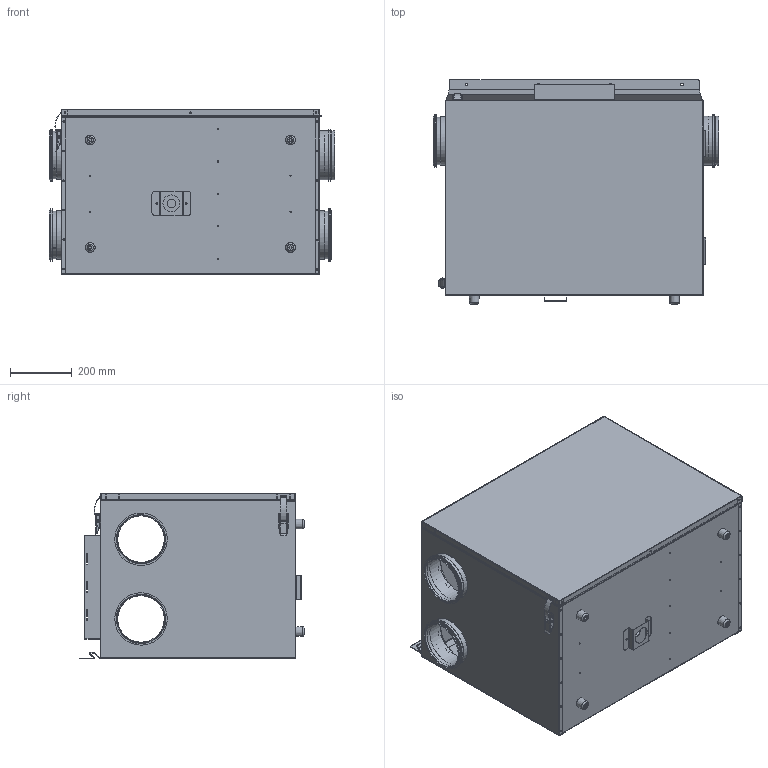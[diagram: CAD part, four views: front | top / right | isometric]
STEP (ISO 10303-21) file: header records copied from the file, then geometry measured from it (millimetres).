
FILE_DESCRIPTION(/* description */ ('Unknown'),/* implementation_level */ '2;1');
FILE_NAME(/* name */ '340H',/* time_stamp */ '2025-11-27T12:26:42+01:00',/* author */ ('Unknown'),/* organization */ ('Unknown'),/* preprocessor_version */ 'ST-DEVELOPER v16.7',/* originating_system */ 'DEX',/* authorisation */ $);
FILE_SCHEMA (('AUTOMOTIVE_DESIGN {1 0 10303 214 3 1 1}'));
Length unit declared in the file: millimetre
Products named in the file (16): 340H; stopka; Kolnierz 160_pk; Pokrywka sterowania 8; tyl dol skos; wieszak; moc reku sciana nowy; moc reku ty³ nowy; obudowa H; Uchwyt syfonu_2stronny; zawias duzy; drzwi zew H; Burta; kolnierz 160; Uszczelka 160; drzwi wewn V_H
Assembly tree (26 placements, depth 3):
  340H
    stopka  x4
    Kolnierz 160_pk  x4
    Pokrywka sterowania 8
    tyl dol skos
    wieszak
      moc reku sciana nowy
      moc reku ty³ nowy
    obudowa H
    Uchwyt syfonu_2stronny
    zawias duzy  x2
    drzwi zew H
    Burta  x2
    kolnierz 160
    Uszczelka 160  x4
    drzwi wewn V_H
Bounding box: 926.83 x 727.13 x 538.5 mm (x, y, z)
Volume: 3773476.4 mm3; surface area: 7724666.4 mm2
Topology: 29 solids, 29 shells, 1483 faces, 3962 edges, 2586 vertices
Faces by surface type: plane 735, cylinder 534, bspline 144, torus 50, cone 20
Full cylindrical faces by diameter (mm): 3.5 x4, 3.7 x9, 4 x4, 4.1 x12, 4.2 x2, 4.5 x17, 4.6 x10, 4.7 x68, 5 x28, 5.3 x4, 6 x2, 6.5 x5, 7.4 x14, 8.5 x4, 9 x4, 10 x4, 13 x2, 28 x1, 55 x1, 150.986 x4, 154.557 x4, 156.986 x1, 157 x8, 158.4 x2, 158.586 x1, 159 x4, 160 x14, 170 x8, 180 x1, 185 x4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
Entity records: 30891 total; most frequent: CARTESIAN_POINT 5913, DIRECTION 4858, ORIENTED_EDGE 4590, EDGE_CURVE 2295, AXIS2_PLACEMENT_3D 1747, VERTEX_POINT 1587, EDGE_LOOP 1556, FACE_BOUND 1556
